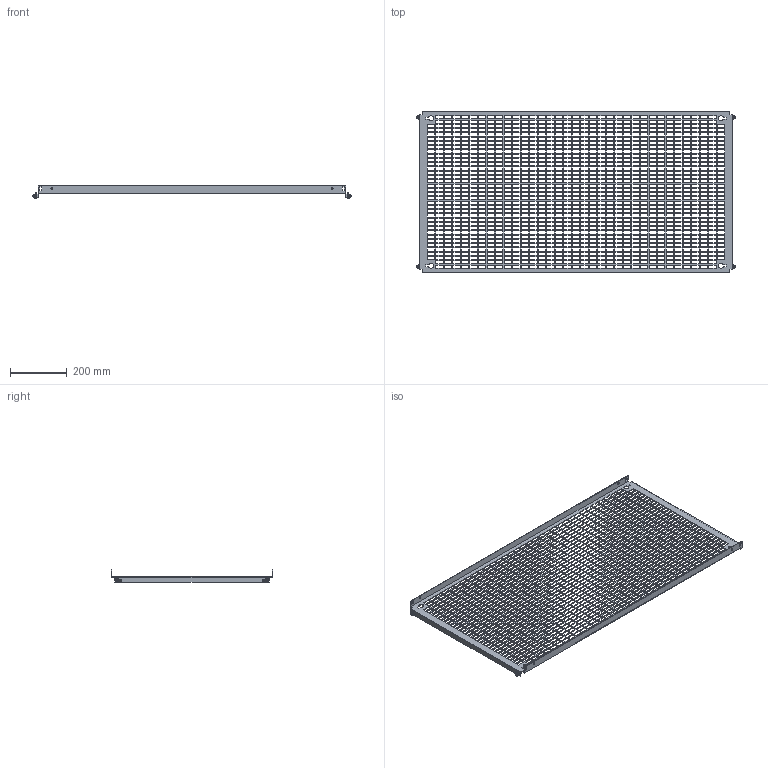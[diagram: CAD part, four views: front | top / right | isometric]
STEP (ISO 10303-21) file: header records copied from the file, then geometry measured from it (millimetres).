
FILE_DESCRIPTION(('Open CASCADE Model'),'2;1');
FILE_NAME('Open CASCADE Shape Model','2025-02-19T16:52:50',('Author'),( 'Open CASCADE'),'Open CASCADE STEP processor 7.8','Open CASCADE 7.8' ,'Unknown');
FILE_SCHEMA(('AUTOMOTIVE_DESIGN { 1 0 10303 214 1 1 1 1 }'));
Length unit declared in the file: millimetre
Products named in the file (4): Compound1; Solid1; Solid2; Solid3
Assembly tree (9 placements, depth 2):
  Compound1
    Solid1
    Solid2  x4
    Solid3  x4
Bounding box: 1119 x 569 x 42.59 mm (x, y, z)
Volume: 841407.3 mm3; surface area: 915683.4 mm2
Topology: 9 solids, 9 shells, 5361 faces, 15890 edges, 10558 vertices
Faces by surface type: plane 5190, cone 68, bspline 63, cylinder 28, torus 12
Full cylindrical faces by diameter (mm): 5 x4, 6 x8, 7 x12
Entity records: 177724 total; most frequent: CARTESIAN_POINT 32653, ORIENTED_EDGE 31102, DIRECTION 25882, EDGE_CURVE 15551, LINE 15370, VECTOR 15370, VERTEX_POINT 10360, FACE_BOUND 7759
